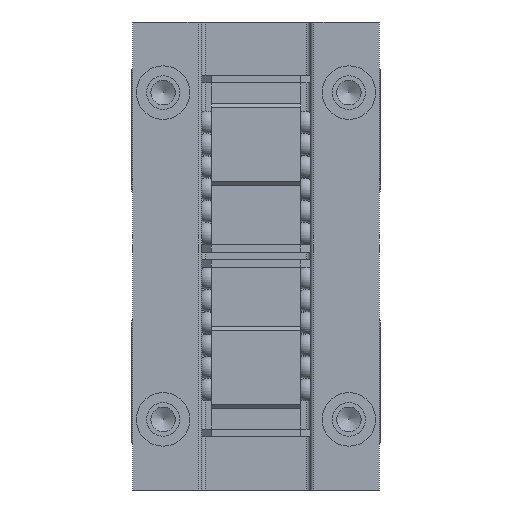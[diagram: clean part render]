
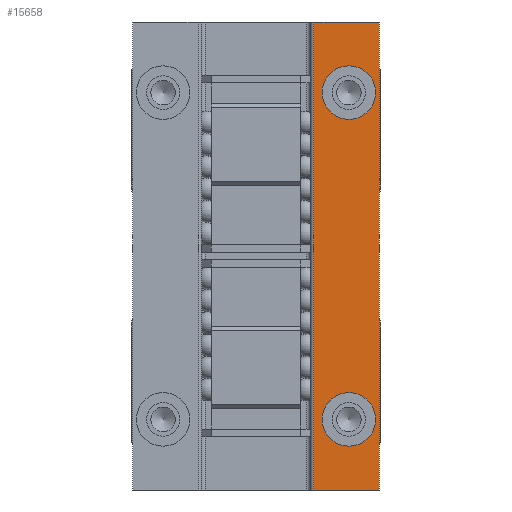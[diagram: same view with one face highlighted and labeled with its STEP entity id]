
A CAD part, front view. The second image highlights one B-rep face of the part: STEP entity #15658.
In plain terms, the highlighted planar face has unit normal (0, -1, 0).
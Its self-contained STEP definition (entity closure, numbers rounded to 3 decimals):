
#122=FACE_BOUND('',#2092,.T.);
#123=FACE_BOUND('',#2093,.T.);
#686=PLANE('',#17193);
#1278=FACE_OUTER_BOUND('',#2091,.T.);
#2091=EDGE_LOOP('',(#12596,#12597,#12598,#12599));
#2092=EDGE_LOOP('',(#12600,#12601));
#2093=EDGE_LOOP('',(#12602,#12603));
#3142=LINE('',#25980,#4389);
#3151=LINE('',#26025,#4398);
#3152=LINE('',#26027,#4399);
#3153=LINE('',#26028,#4400);
#4389=VECTOR('',#20714,1000.);
#4398=VECTOR('',#20761,1000.);
#4399=VECTOR('',#20762,1000.);
#4400=VECTOR('',#20763,1000.);
#5586=CIRCLE('',#17165,3.6);
#5587=CIRCLE('',#17166,3.6);
#5591=CIRCLE('',#17172,3.6);
#5592=CIRCLE('',#17173,3.6);
#7029=VERTEX_POINT('',#25954);
#7030=VERTEX_POINT('',#25956);
#7034=VERTEX_POINT('',#25967);
#7035=VERTEX_POINT('',#25969);
#7036=VERTEX_POINT('',#25973);
#7039=VERTEX_POINT('',#25978);
#7056=VERTEX_POINT('',#26024);
#7057=VERTEX_POINT('',#26026);
#9161=EDGE_CURVE('',#7030,#7029,#5586,.T.);
#9162=EDGE_CURVE('',#7029,#7030,#5587,.T.);
#9167=EDGE_CURVE('',#7035,#7034,#5591,.T.);
#9168=EDGE_CURVE('',#7034,#7035,#5592,.T.);
#9172=EDGE_CURVE('',#7039,#7036,#3142,.T.);
#9193=EDGE_CURVE('',#7039,#7056,#3151,.T.);
#9194=EDGE_CURVE('',#7056,#7057,#3152,.T.);
#9195=EDGE_CURVE('',#7036,#7057,#3153,.T.);
#12596=ORIENTED_EDGE('',*,*,#9193,.T.);
#12597=ORIENTED_EDGE('',*,*,#9194,.T.);
#12598=ORIENTED_EDGE('',*,*,#9195,.F.);
#12599=ORIENTED_EDGE('',*,*,#9172,.F.);
#12600=ORIENTED_EDGE('',*,*,#9167,.T.);
#12601=ORIENTED_EDGE('',*,*,#9168,.T.);
#12602=ORIENTED_EDGE('',*,*,#9161,.T.);
#12603=ORIENTED_EDGE('',*,*,#9162,.T.);
#15658=ADVANCED_FACE('',(#1278,#122,#123),#686,.T.);
#17165=AXIS2_PLACEMENT_3D('',#25957,#20690,#20691);
#17166=AXIS2_PLACEMENT_3D('',#25958,#20692,#20693);
#17172=AXIS2_PLACEMENT_3D('',#25970,#20705,#20706);
#17173=AXIS2_PLACEMENT_3D('',#25971,#20707,#20708);
#17193=AXIS2_PLACEMENT_3D('',#26023,#20759,#20760);
#20690=DIRECTION('center_axis',(0.,1.,0.));
#20691=DIRECTION('ref_axis',(1.,0.,0.));
#20692=DIRECTION('center_axis',(0.,1.,0.));
#20693=DIRECTION('ref_axis',(1.,0.,0.));
#20705=DIRECTION('center_axis',(0.,1.,0.));
#20706=DIRECTION('ref_axis',(1.,0.,0.));
#20707=DIRECTION('center_axis',(0.,1.,0.));
#20708=DIRECTION('ref_axis',(1.,0.,0.));
#20714=DIRECTION('',(0.,0.,-1.));
#20759=DIRECTION('center_axis',(0.,-1.,0.));
#20760=DIRECTION('ref_axis',(1.,0.,0.));
#20761=DIRECTION('',(-1.,0.,0.));
#20762=DIRECTION('',(0.,0.,-1.));
#20763=DIRECTION('',(-1.,0.,0.));
#25954=CARTESIAN_POINT('',(8.9,-62.6,-22.));
#25956=CARTESIAN_POINT('',(16.1,-62.6,-22.));
#25957=CARTESIAN_POINT('Origin',(12.5,-62.6,-22.));
#25958=CARTESIAN_POINT('Origin',(12.5,-62.6,-22.));
#25967=CARTESIAN_POINT('',(8.9,-62.6,22.));
#25969=CARTESIAN_POINT('',(16.1,-62.6,22.));
#25970=CARTESIAN_POINT('Origin',(12.5,-62.6,22.));
#25971=CARTESIAN_POINT('Origin',(12.5,-62.6,22.));
#25973=CARTESIAN_POINT('',(16.6,-62.6,-31.5));
#25978=CARTESIAN_POINT('',(16.6,-62.6,31.5));
#25980=CARTESIAN_POINT('',(16.6,-62.6,31.5));
#26023=CARTESIAN_POINT('Origin',(16.6,-62.6,31.5));
#26024=CARTESIAN_POINT('',(7.8,-62.6,31.5));
#26025=CARTESIAN_POINT('',(16.6,-62.6,31.5));
#26026=CARTESIAN_POINT('',(7.8,-62.6,-31.5));
#26027=CARTESIAN_POINT('',(7.8,-62.6,31.5));
#26028=CARTESIAN_POINT('',(0.,-62.6,-31.5));
